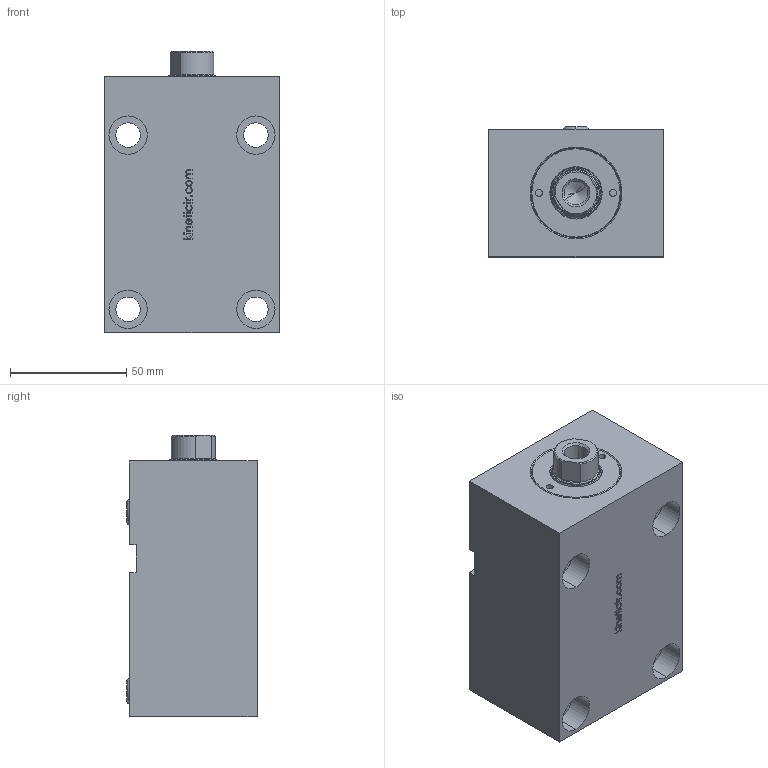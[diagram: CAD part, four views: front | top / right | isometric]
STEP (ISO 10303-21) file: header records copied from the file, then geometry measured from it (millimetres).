
FILE_DESCRIPTION (( 'STEP AP214' ), '1' );
FILE_NAME ('KBZ_11_32_20_60.STEP', '2019-09-15T15:06:50', ( '' ), ( '' ), 'SwSTEP 2.0', 'SolidWorks 2018', '' );
FILE_SCHEMA (( 'AUTOMOTIVE_DESIGN' ));
Length unit declared in the file: millimetre
Products named in the file (6): KBZ_11_32_20_60; K06-20X25X4_3X6; kbz_11_32_20_govde_W; KBZ_11_32_ON_kapak_W; KO-6X2_5; KBZ_11_20_MIL_W
Assembly tree (6 placements, depth 2):
  KBZ_11_32_20_60
    kbz_11_32_20_govde_W
    KBZ_11_20_MIL_W
    KBZ_11_32_ON_kapak_W
    K06-20X25X4_3X6
    KO-6X2_5  x2
Bounding box: 75 x 56 x 121 mm (x, y, z)
Volume: 420079.8 mm3; surface area: 59715.8 mm2
Topology: 6 solids, 6 shells, 325 faces, 785 edges, 504 vertices
Faces by surface type: plane 137, bspline 77, cylinder 62, cone 49
Entity records: 12988 total; most frequent: CARTESIAN_POINT 5553, ORIENTED_EDGE 1550, DIRECTION 1308, EDGE_CURVE 775, VERTEX_POINT 500, LINE 438, VECTOR 438, AXIS2_PLACEMENT_3D 435
